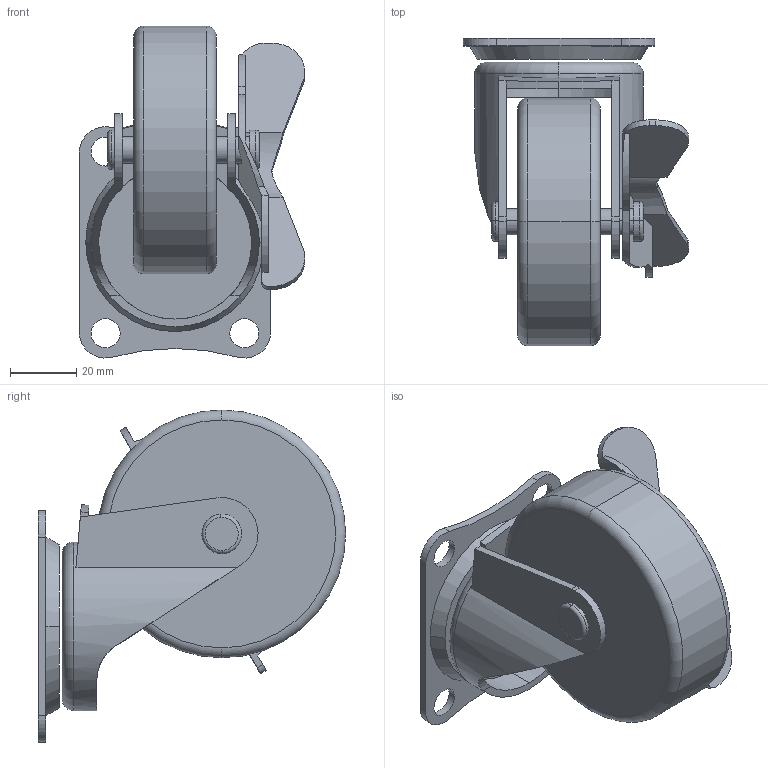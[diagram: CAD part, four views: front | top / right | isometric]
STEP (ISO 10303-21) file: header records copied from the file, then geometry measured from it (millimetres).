
FILE_DESCRIPTION (( 'STEP AP214' ), '1' );
FILE_NAME ('SG-75RHS.STEP', '2020-03-31T02:12:27', ( '' ), ( '' ), 'SwSTEP 2.0', 'SolidWorks 2019', '' );
FILE_SCHEMA (( 'AUTOMOTIVE_DESIGN' ));
Length unit declared in the file: millimetre
Products named in the file (6): SG-75RH_parts A; SG-75RHS; SG-75RH_parts B; SG-Stopper; SG-75RH_wheel; SG-S_jiku
Assembly tree (5 placements, depth 2):
  SG-75RHS
    SG-75RH_wheel
    SG-75RH_parts B
    SG-75RH_parts A
    SG-Stopper
    SG-S_jiku
Bounding box: 68.3 x 93 x 100.48 mm (x, y, z)
Volume: 146841.1 mm3; surface area: 43727.5 mm2
Topology: 5 solids, 5 shells, 118 faces, 310 edges, 203 vertices
Faces by surface type: cylinder 56, plane 50, torus 10, cone 2
Entity records: 4025 total; most frequent: CARTESIAN_POINT 794, DIRECTION 663, ORIENTED_EDGE 620, EDGE_CURVE 310, AXIS2_PLACEMENT_3D 256, VERTEX_POINT 203, LINE 151, VECTOR 151
